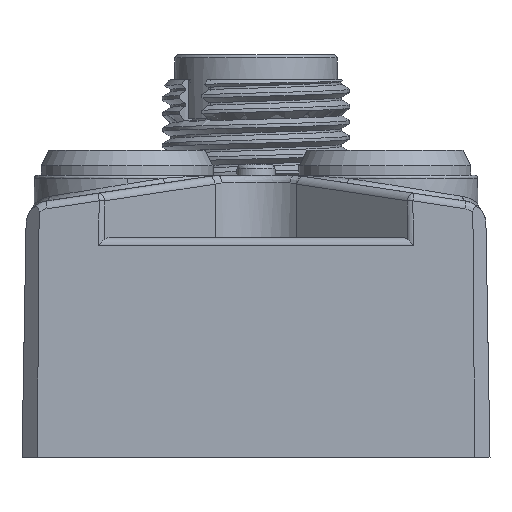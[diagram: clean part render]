
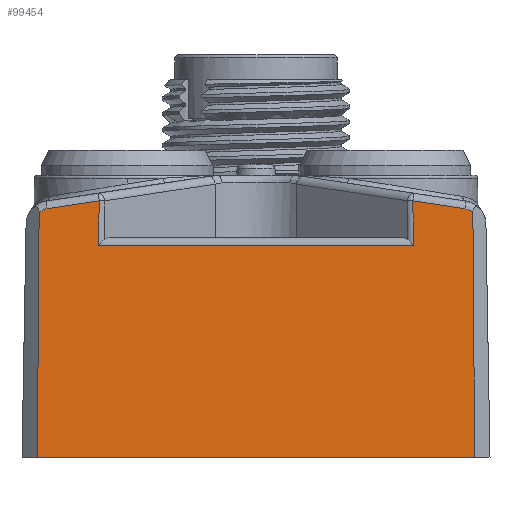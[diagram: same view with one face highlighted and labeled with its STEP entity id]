
A CAD part, front view. The second image highlights one B-rep face of the part: STEP entity #99454.
In plain terms, the highlighted planar face has unit normal (0, -1, 0.018).
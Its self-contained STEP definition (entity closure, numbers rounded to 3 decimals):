
#503 = VERTEX_POINT ( 'NONE', #55750 ) ;
#3726 = CARTESIAN_POINT ( 'NONE',  ( -12.249, -32.939, 15.221 ) ) ;
#3950 = LINE ( 'NONE', #108407, #67342 ) ;
#4165 = CARTESIAN_POINT ( 'NONE',  ( -13.728, -32.944, 14.941 ) ) ;
#4368 = CARTESIAN_POINT ( 'NONE',  ( 10.03, -32.933, 15.558 ) ) ;
#4983 = DIRECTION ( 'NONE',  ( -0.989, 0.003, 0.15 ) ) ;
#5986 = VECTOR ( 'NONE', #48932, 1000. ) ;
#6144 = ORIENTED_EDGE ( 'NONE', *, *, #12807, .F. ) ;
#7809 = CARTESIAN_POINT ( 'NONE',  ( 10.03, -32.933, 15.558 ) ) ;
#8636 = ORIENTED_EDGE ( 'NONE', *, *, #71750, .T. ) ;
#8710 = CARTESIAN_POINT ( 'NONE',  ( 13.546, -32.943, 15.01 ) ) ;
#9738 = VERTEX_POINT ( 'NONE', #36171 ) ;
#10889 = VERTEX_POINT ( 'NONE', #51601 ) ;
#11030 = VERTEX_POINT ( 'NONE', #99742 ) ;
#11147 = EDGE_CURVE ( 'NONE', #96135, #10889, #87736, .T. ) ;
#11338 = CARTESIAN_POINT ( 'NONE',  ( -13.359, -32.942, 15.052 ) ) ;
#12807 = EDGE_CURVE ( 'NONE', #96135, #11030, #77770, .T. ) ;
#13775 = EDGE_CURVE ( 'NONE', #105024, #503, #42713, .T. ) ;
#13815 = EDGE_CURVE ( 'NONE', #77748, #77419, #91480, .T. ) ;
#14069 = DIRECTION ( 'NONE',  ( 0.007, -0.017, -1. ) ) ;
#14814 = CARTESIAN_POINT ( 'NONE',  ( -13.987, -33.219, -0.85 ) ) ;
#16791 = DIRECTION ( 'NONE',  ( -1., 0., 0. ) ) ;
#17477 = CARTESIAN_POINT ( 'NONE',  ( -10.03, -32.933, 15.558 ) ) ;
#17606 = ORIENTED_EDGE ( 'NONE', *, *, #23467, .T. ) ;
#17817 = CARTESIAN_POINT ( 'NONE',  ( 13.802, -32.945, 14.875 ) ) ;
#19495 = EDGE_CURVE ( 'NONE', #503, #77748, #46507, .T. ) ;
#19565 = ORIENTED_EDGE ( 'NONE', *, *, #26232, .F. ) ;
#21801 = DIRECTION ( 'NONE',  ( 0.017, -0.017, -1. ) ) ;
#23467 = EDGE_CURVE ( 'NONE', #9738, #73155, #90807, .T. ) ;
#24770 = CARTESIAN_POINT ( 'NONE',  ( 10.08, -32.983, 12.709 ) ) ;
#25863 = VERTEX_POINT ( 'NONE', #7809 ) ;
#26232 = EDGE_CURVE ( 'NONE', #11030, #73155, #102746, .T. ) ;
#26555 = CARTESIAN_POINT ( 'NONE',  ( -14.155, -32.931, 15.657 ) ) ;
#26876 = CARTESIAN_POINT ( 'NONE',  ( 13.874, -32.946, 14.811 ) ) ;
#28564 = EDGE_CURVE ( 'NONE', #10889, #25863, #3950, .T. ) ;
#29208 = B_SPLINE_CURVE_WITH_KNOTS ( 'NONE', 3,
 ( #108349, #38165, #4165, #82631 ),
 .UNSPECIFIED., .F., .F.,
 ( 4, 4 ),
 ( 0., 1. ),
 .UNSPECIFIED. ) ;
#31608 = CARTESIAN_POINT ( 'NONE',  ( -10.08, -32.983, 12.709 ) ) ;
#34864 = CARTESIAN_POINT ( 'NONE',  ( 0., -32.983, 12.709 ) ) ;
#35888 = CARTESIAN_POINT ( 'NONE',  ( 13.455, -32.942, 15.038 ) ) ;
#36171 = CARTESIAN_POINT ( 'NONE',  ( -13.874, -32.946, 14.811 ) ) ;
#38165 = CARTESIAN_POINT ( 'NONE',  ( -13.548, -32.942, 15.024 ) ) ;
#42713 = LINE ( 'NONE', #34864, #96748 ) ;
#46507 = LINE ( 'NONE', #31608, #5986 ) ;
#48932 = DIRECTION ( 'NONE',  ( 0.017, 0.017, 1. ) ) ;
#49848 = ORIENTED_EDGE ( 'NONE', *, *, #107290, .T. ) ;
#51569 = CARTESIAN_POINT ( 'NONE',  ( -10.03, -32.933, 15.558 ) ) ;
#51601 = CARTESIAN_POINT ( 'NONE',  ( 13.359, -32.942, 15.052 ) ) ;
#52164 = DIRECTION ( 'NONE',  ( 0., -0.017, -1. ) ) ;
#55750 = CARTESIAN_POINT ( 'NONE',  ( -10.08, -32.983, 12.709 ) ) ;
#57107 = FACE_OUTER_BOUND ( 'NONE', #107905, .T. ) ;
#60474 = CARTESIAN_POINT ( 'NONE',  ( -13.359, -32.942, 15.052 ) ) ;
#60835 = VECTOR ( 'NONE', #21801, 1000. ) ;
#60960 = ORIENTED_EDGE ( 'NONE', *, *, #19495, .T. ) ;
#62701 = ORIENTED_EDGE ( 'NONE', *, *, #13775, .T. ) ;
#62943 = VECTOR ( 'NONE', #14069, 1000. ) ;
#63253 = CARTESIAN_POINT ( 'NONE',  ( -13.874, -32.946, 14.811 ) ) ;
#65131 = VECTOR ( 'NONE', #80952, 1000. ) ;
#67342 = VECTOR ( 'NONE', #4983, 1000. ) ;
#68481 = ORIENTED_EDGE ( 'NONE', *, *, #28564, .T. ) ;
#71750 = EDGE_CURVE ( 'NONE', #77419, #9738, #29208, .T. ) ;
#73155 = VERTEX_POINT ( 'NONE', #14814 ) ;
#75497 = ORIENTED_EDGE ( 'NONE', *, *, #13815, .T. ) ;
#77419 = VERTEX_POINT ( 'NONE', #60474 ) ;
#77748 = VERTEX_POINT ( 'NONE', #51569 ) ;
#77770 = LINE ( 'NONE', #90234, #62943 ) ;
#78105 = CARTESIAN_POINT ( 'NONE',  ( 13.719, -32.944, 14.929 ) ) ;
#80952 = DIRECTION ( 'NONE',  ( -0.007, -0.017, -1. ) ) ;
#82476 = LINE ( 'NONE', #4368, #60835 ) ;
#82631 = CARTESIAN_POINT ( 'NONE',  ( -13.874, -32.946, 14.811 ) ) ;
#83748 = VECTOR ( 'NONE', #16791, 1000. ) ;
#86837 = DIRECTION ( 'NONE',  ( 0., -1., 0.017 ) ) ;
#87736 = B_SPLINE_CURVE_WITH_KNOTS ( 'NONE', 3,
 ( #26876, #17817, #78105, #8710, #35888, #104557 ),
 .UNSPECIFIED., .F., .F.,
 ( 4, 2, 4 ),
 ( 0., 0.5, 1. ),
 .UNSPECIFIED. ) ;
#90234 = CARTESIAN_POINT ( 'NONE',  ( 13.874, -32.946, 14.811 ) ) ;
#90807 = LINE ( 'NONE', #63253, #65131 ) ;
#90886 = CARTESIAN_POINT ( 'NONE',  ( 13.874, -32.946, 14.811 ) ) ;
#91418 = CARTESIAN_POINT ( 'NONE',  ( -11.14, -32.936, 15.39 ) ) ;
#91480 = B_SPLINE_CURVE_WITH_KNOTS ( 'NONE', 3,
 ( #17477, #91418, #3726, #11338 ),
 .UNSPECIFIED., .F., .F.,
 ( 4, 4 ),
 ( 0., 1. ),
 .UNSPECIFIED. ) ;
#92995 = AXIS2_PLACEMENT_3D ( 'NONE', #26555, #86837, #52164 ) ;
#94065 = CARTESIAN_POINT ( 'NONE',  ( 0., -33.219, -0.85 ) ) ;
#96135 = VERTEX_POINT ( 'NONE', #90886 ) ;
#96748 = VECTOR ( 'NONE', #100657, 1000. ) ;
#99454 = ADVANCED_FACE ( 'NONE', ( #57107 ), #103138, .T. ) ;
#99742 = CARTESIAN_POINT ( 'NONE',  ( 13.987, -33.219, -0.85 ) ) ;
#100278 = ORIENTED_EDGE ( 'NONE', *, *, #11147, .T. ) ;
#100657 = DIRECTION ( 'NONE',  ( -1., 0., 0. ) ) ;
#102746 = LINE ( 'NONE', #94065, #83748 ) ;
#103138 = PLANE ( 'NONE',  #92995 ) ;
#104557 = CARTESIAN_POINT ( 'NONE',  ( 13.359, -32.942, 15.052 ) ) ;
#105024 = VERTEX_POINT ( 'NONE', #24770 ) ;
#107290 = EDGE_CURVE ( 'NONE', #25863, #105024, #82476, .T. ) ;
#107905 = EDGE_LOOP ( 'NONE', ( #60960, #75497, #8636, #17606, #19565, #6144, #100278, #68481, #49848, #62701 ) ) ;
#108349 = CARTESIAN_POINT ( 'NONE',  ( -13.359, -32.942, 15.052 ) ) ;
#108407 = CARTESIAN_POINT ( 'NONE',  ( 11.705, -32.937, 15.304 ) ) ;
